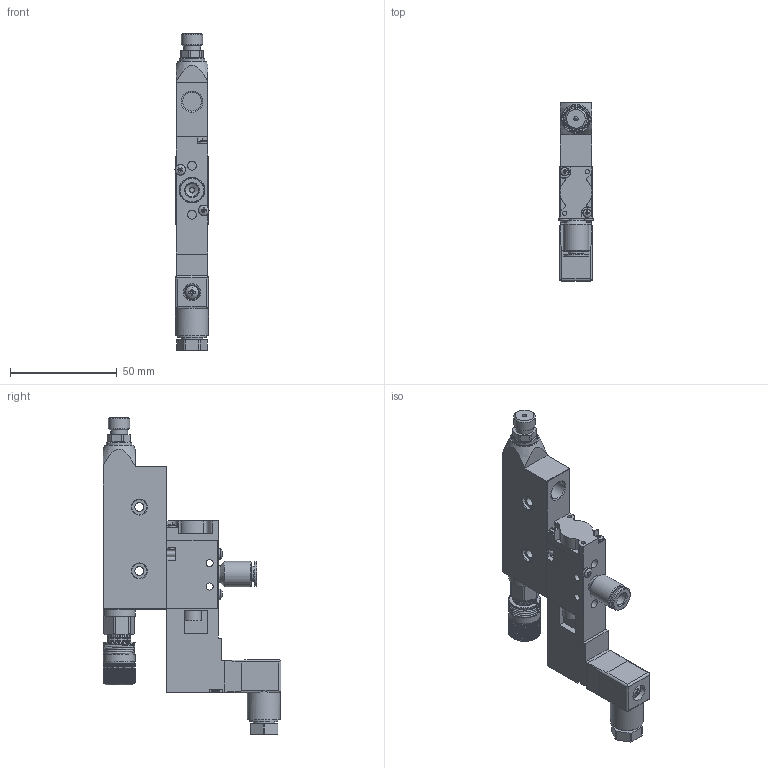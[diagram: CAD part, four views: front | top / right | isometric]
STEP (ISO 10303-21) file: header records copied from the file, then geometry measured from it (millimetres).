
FILE_DESCRIPTION (( 'STEP AP214' ), '1' );
FILE_NAME ('DA-400EV-18.STEP', '2024-10-11T09:51:22', ( '' ), ( '' ), 'SwSTEP 2.0', 'SolidWorks 2024', '' );
FILE_SCHEMA (( 'AUTOMOTIVE_DESIGN' ));
Length unit declared in the file: millimetre
Products named in the file (1): DA-400EV-18
Bounding box: 16 x 83.5 x 148.75 mm (x, y, z)
Volume: 72018.1 mm3; surface area: 27855.9 mm2
Topology: 2 solids, 2 shells, 1034 faces, 2761 edges, 1771 vertices
Faces by surface type: plane 602, cylinder 297, cone 86, torus 31, sphere 11, bspline 7
Full cylindrical faces by diameter (mm): 1 x2, 1.5 x1, 1.6 x1, 2 x4, 2.5 x9, 2.7 x5, 3 x6, 3.2 x3, 3.3 x2, 3.5 x4, 4 x4, 4.2 x6, 4.5 x1, 5 x3, 5.5 x1, 6.15 x1, 7 x4, 7.3 x1, 7.5 x1, 8 x2, 8.8 x1, 8.85 x1, 10 x2, 10.5 x1, 11.5 x1, 12 x2, 13.157 x1, 15 x3, 15.5 x1
Entity records: 42038 total; most frequent: CARTESIAN_POINT 18899, ORIENTED_EDGE 5084, DIRECTION 4046, EDGE_CURVE 2542, VERTEX_POINT 1698, AXIS2_PLACEMENT_3D 1434, EDGE_LOOP 1268, LINE 1178
